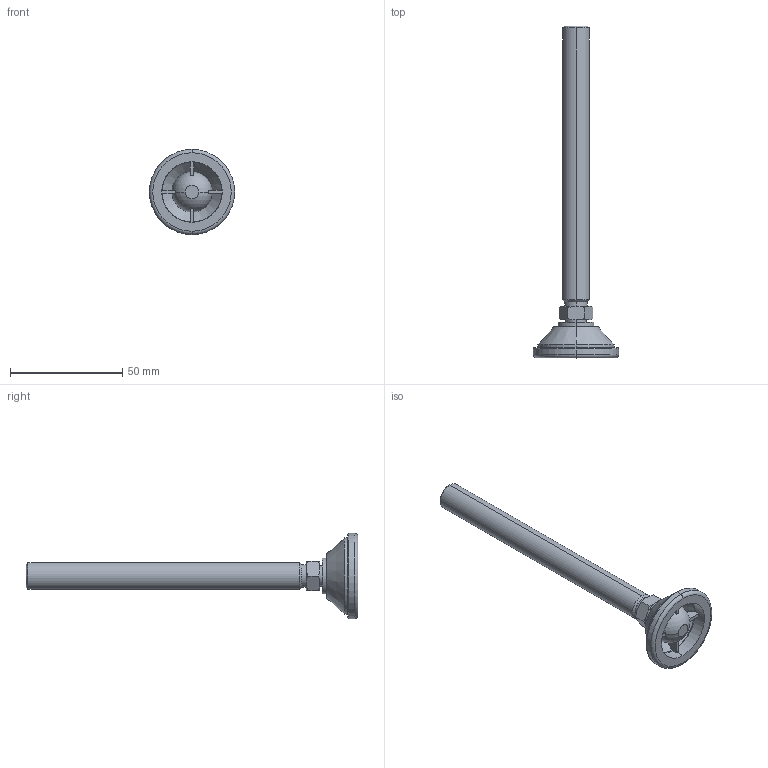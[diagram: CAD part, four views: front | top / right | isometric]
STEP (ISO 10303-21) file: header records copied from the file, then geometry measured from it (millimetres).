
FILE_DESCRIPTION (( 'STEP AP203' ), '1' );
FILE_NAME ('3472.W126.step', '2009-10-21T17:00:40', ( 'Wixroyd' ), ( 'Wixroyd' ), 'SwSTEP 2.0', 'SolidWorks 2009', '' );
FILE_SCHEMA (( 'CONFIG_CONTROL_DESIGN' ));
Length unit declared in the file: millimetre
Products named in the file (3): Part1_3472W126; Part2_3472W126; 3472.W126
Assembly tree (2 placements, depth 2):
  3472.W126
    Part1_3472W126
    Part2_3472W126
Bounding box: 38 x 148 x 38 mm (x, y, z)
Volume: 23054.4 mm3; surface area: 10729.4 mm2
Topology: 2 solids, 2 shells, 83 faces, 202 edges, 126 vertices
Faces by surface type: plane 27, cone 22, cylinder 16, torus 12, sphere 6
Entity records: 2825 total; most frequent: CARTESIAN_POINT 610, DIRECTION 438, ORIENTED_EDGE 386, AXIS2_PLACEMENT_3D 197, EDGE_CURVE 193, VERTEX_POINT 121, CIRCLE 109, EDGE_LOOP 90
